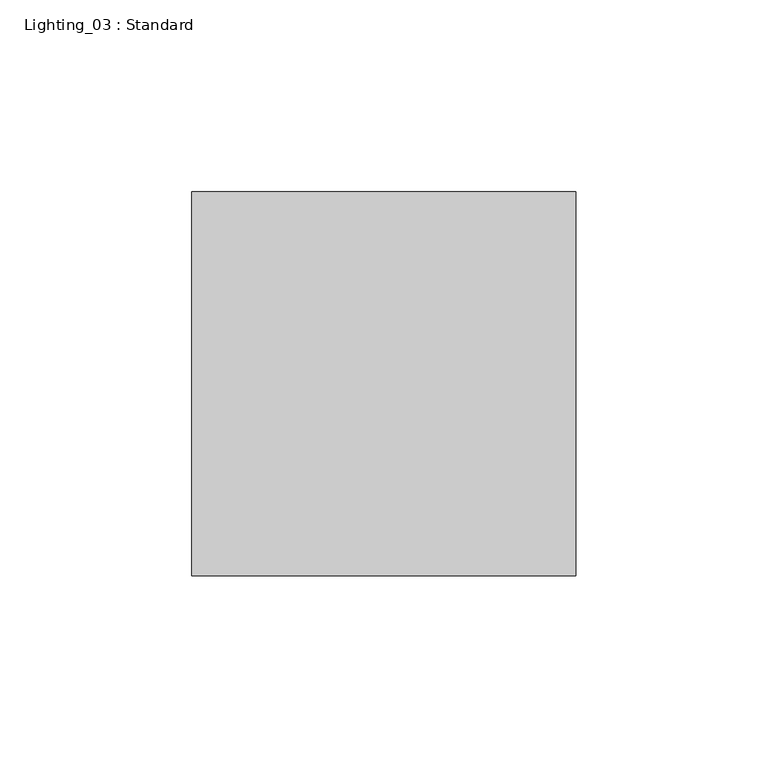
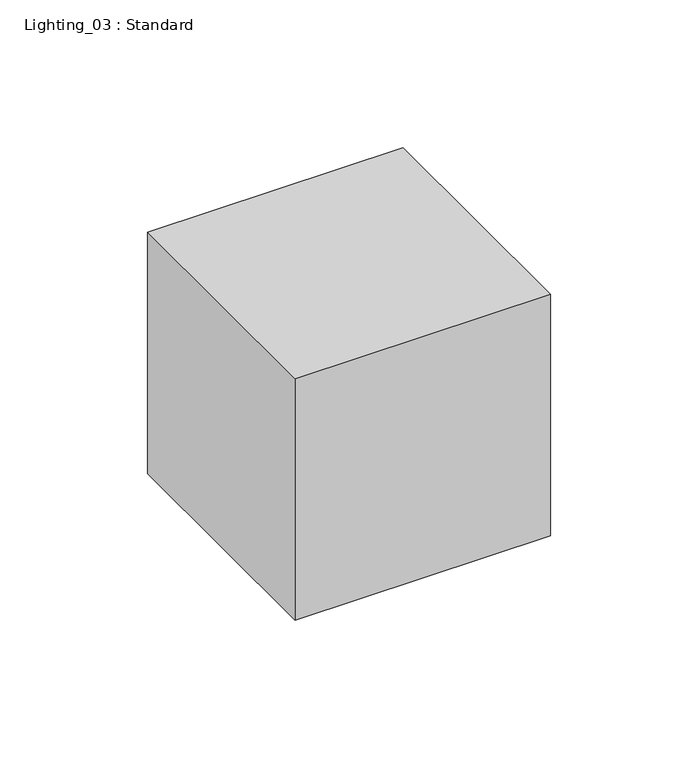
"""IFC4 building model written with IfcOpenShell, lengths in millimetres: light fixture geometry, Lighting_03 : Standard."""

from ifc_helpers import new_model, si_unit, origin, origin_with_axes, place, context, project, spatial, polyline, outline, extrude, source, transform, mapped, element, save


def lighting_03_standard_1bcd569f(model_context):
    return source(origin(), model_context, "Body", "SweptSolid", [
        extrude(outline(polyline([(50.0, 50.0), (50.0, -50.0), (-50.0, -50.0), (-50.0, 50.0), (50.0, 50.0)])), origin_with_axes(), (0.0, 0.0, 1.0), 100.0),
    ])


if __name__ == "__main__":
    model = new_model("IFC4")
    model_context = context("Model", 3, world=origin())
    ifc_project = project(units=[si_unit("LENGTHUNIT", "METRE", prefix="MILLI")], contexts=[model_context])
    site = spatial("IfcSite", under=ifc_project)
    building = spatial("IfcBuilding", under=site)
    placement = place(None, origin())
    lighting_03_standard_shape = lighting_03_standard_1bcd569f(model_context)
    element("IfcLightFixture", 1, ObjectType="Lighting_03 : Standard", at=placement, inside=building, context=model_context, shape_type="MappedRepresentation", body=[
        mapped(lighting_03_standard_shape, transform((0.0, 0.0, 0.0), x_axis=(1.0, 0.0, 0.0), y_axis=(0.0, 1.0, 0.0), z_axis=(0.0, 0.0, 1.0))),
    ])
    save(model, "model.ifc")
